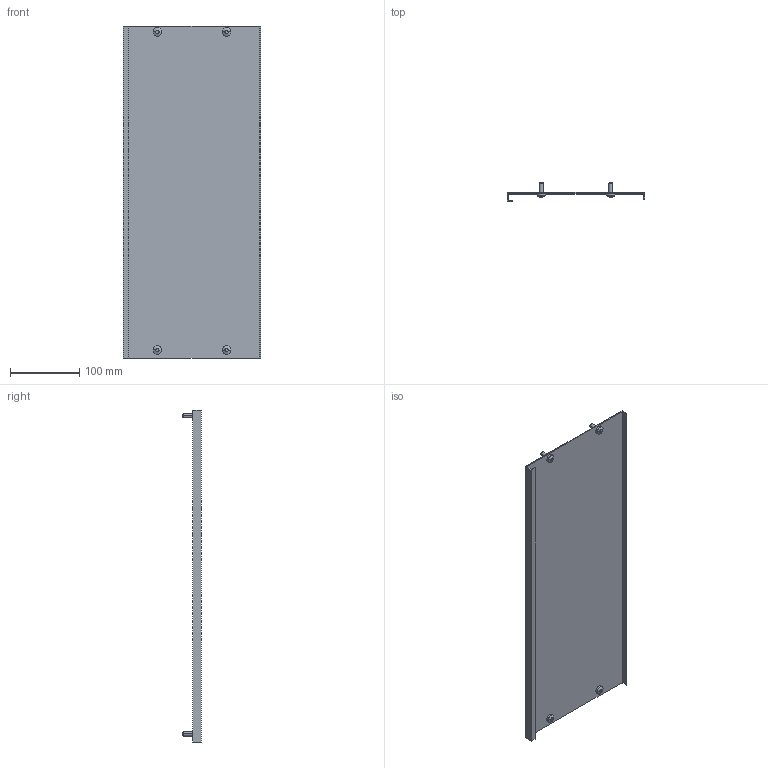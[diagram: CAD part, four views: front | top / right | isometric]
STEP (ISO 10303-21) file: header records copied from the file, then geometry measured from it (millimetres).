
FILE_DESCRIPTION (( 'STEP AP214' ), '1' );
FILE_NAME ('FO-00-PVS-020-060 Ïëàñòðîí ãëóõîé âíóòðåííèé 200õ600.STEP', '2025-09-29T19:15:58', ( '' ), ( '' ), 'SwSTEP 2.0', 'SolidWorks 2023', '' );
FILE_SCHEMA (( 'AUTOMOTIVE_DESIGN' ));
Length unit declared in the file: millimetre
Products named in the file (3): Винт M6x16 20-060 IEK; FO-00-PVS-020-060 Пластрон глухой внутренний 200х600
Assembly tree (3 placements, depth 2):
  FO-00-PVS-020-060 Пластрон глухой внутренний 200х600
    FO-00-PVS-020-060 Пластрон глухой внутренний 200х600
    Винт M6x16 20-060 IEK  x2
Bounding box: 198 x 27 x 479 mm (x, y, z)
Volume: 163788.5 mm3; surface area: 219083.5 mm2
Topology: 5 solids, 5 shells, 150 faces, 392 edges, 256 vertices
Faces by surface type: cylinder 88, plane 42, cone 12, bspline 8
Entity records: 3233 total; most frequent: CARTESIAN_POINT 724, ORIENTED_EDGE 512, DIRECTION 500, EDGE_CURVE 256, AXIS2_PLACEMENT_3D 180, VERTEX_POINT 168, LINE 140, VECTOR 140
